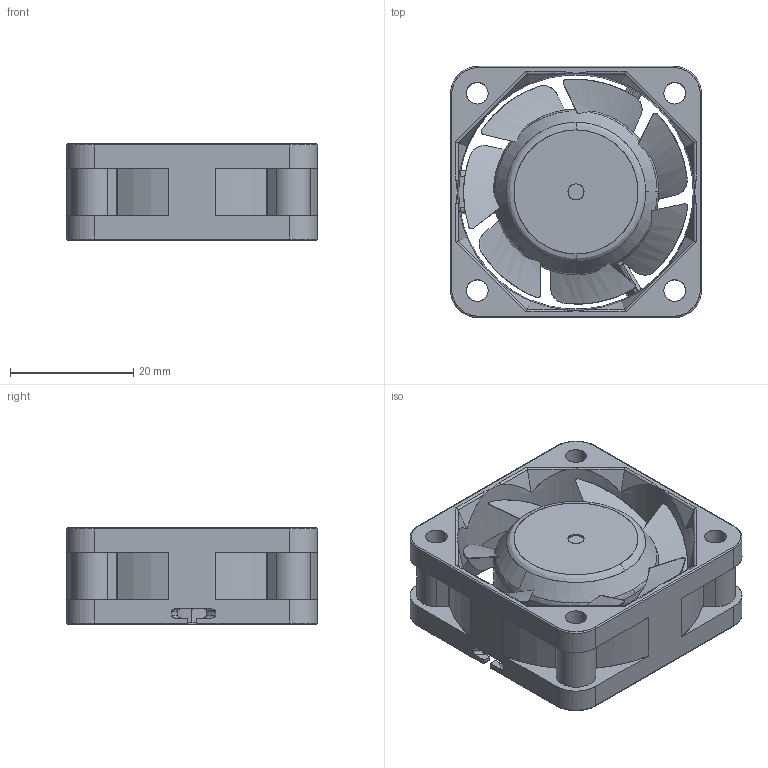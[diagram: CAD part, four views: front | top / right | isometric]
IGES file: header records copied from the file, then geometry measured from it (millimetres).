
Start section: SolidWorks IGES file using analytic representation for surfaces
Bounding box: 40.7 x 40.7 x 15.65 mm (x, y, z)
Surface area: 11197 mm2 (no closed solid volume)
Topology: 0 solids, 0 shells, 331 faces, 3860 edges, 3846 vertices
Faces by surface type: bspline 168, revolution 163
